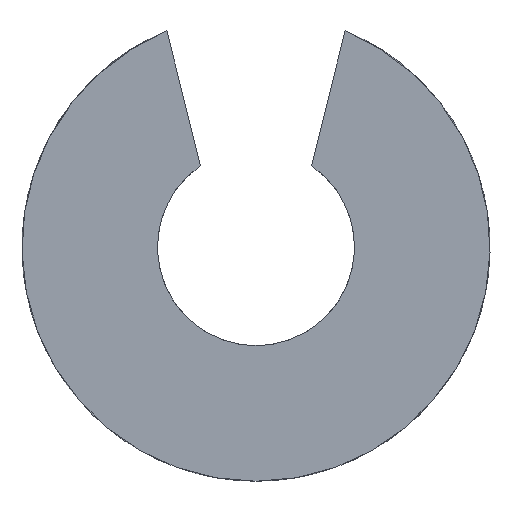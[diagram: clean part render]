
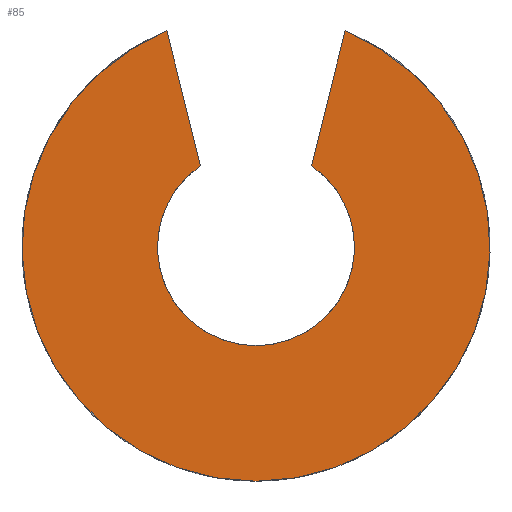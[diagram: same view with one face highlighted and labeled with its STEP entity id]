
A CAD part, front view. The second image highlights one B-rep face of the part: STEP entity #85.
In plain terms, the highlighted planar face has unit normal (0, -1, 0).
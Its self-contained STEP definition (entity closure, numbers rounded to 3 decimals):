
#85 = ADVANCED_FACE( '', ( #163 ), #164, .F. );
#163 = FACE_OUTER_BOUND( '', #235, .T. );
#164 = PLANE( '', #236 );
#235 = EDGE_LOOP( '', ( #353, #354, #355, #356 ) );
#236 = AXIS2_PLACEMENT_3D( '', #357, #358, #359 );
#353 = ORIENTED_EDGE( '', *, *, #463, .F. );
#354 = ORIENTED_EDGE( '', *, *, #448, .T. );
#355 = ORIENTED_EDGE( '', *, *, #428, .F. );
#356 = ORIENTED_EDGE( '', *, *, #419, .F. );
#357 = CARTESIAN_POINT( '', ( 16., -26., -17. ) );
#358 = DIRECTION( '', ( 0., 1., 0. ) );
#359 = DIRECTION( '', ( 0., 0., 1. ) );
#419 = EDGE_CURVE( '', #478, #479, #480, .T. );
#428 = EDGE_CURVE( '', #479, #495, #496, .T. );
#448 = EDGE_CURVE( '', #526, #495, #527, .T. );
#463 = EDGE_CURVE( '', #526, #478, #548, .T. );
#478 = VERTEX_POINT( '', #564 );
#479 = VERTEX_POINT( '', #565 );
#480 = CIRCLE( '', #566, 38. );
#495 = VERTEX_POINT( '', #585 );
#496 = LINE( '', #586, #587 );
#526 = VERTEX_POINT( '', #626 );
#527 = CIRCLE( '', #627, 16. );
#548 = LINE( '', #655, #656 );
#564 = CARTESIAN_POINT( '', ( 30.48, -26., 18.133 ) );
#565 = CARTESIAN_POINT( '', ( 1.52, -26., 18.133 ) );
#566 = AXIS2_PLACEMENT_3D( '', #673, #674, #675 );
#585 = CARTESIAN_POINT( '', ( 6.984, -26., -3.782 ) );
#586 = CARTESIAN_POINT( '', ( 1.52, -26., 18.133 ) );
#587 = VECTOR( '', #689, 1000. );
#626 = CARTESIAN_POINT( '', ( 25.016, -26., -3.782 ) );
#627 = AXIS2_PLACEMENT_3D( '', #714, #715, #716 );
#655 = CARTESIAN_POINT( '', ( 25.016, -26., -3.782 ) );
#656 = VECTOR( '', #736, 1000. );
#673 = CARTESIAN_POINT( '', ( 16., -26., -17. ) );
#674 = DIRECTION( '', ( 0., 1., 0. ) );
#675 = DIRECTION( '', ( 1., 0., 0. ) );
#689 = DIRECTION( '', ( 0.242, 0., -0.97 ) );
#714 = CARTESIAN_POINT( '', ( 16., -26., -17. ) );
#715 = DIRECTION( '', ( 0., 1., 0. ) );
#716 = DIRECTION( '', ( 1., 0., 0. ) );
#736 = DIRECTION( '', ( 0.242, 0., 0.97 ) );
